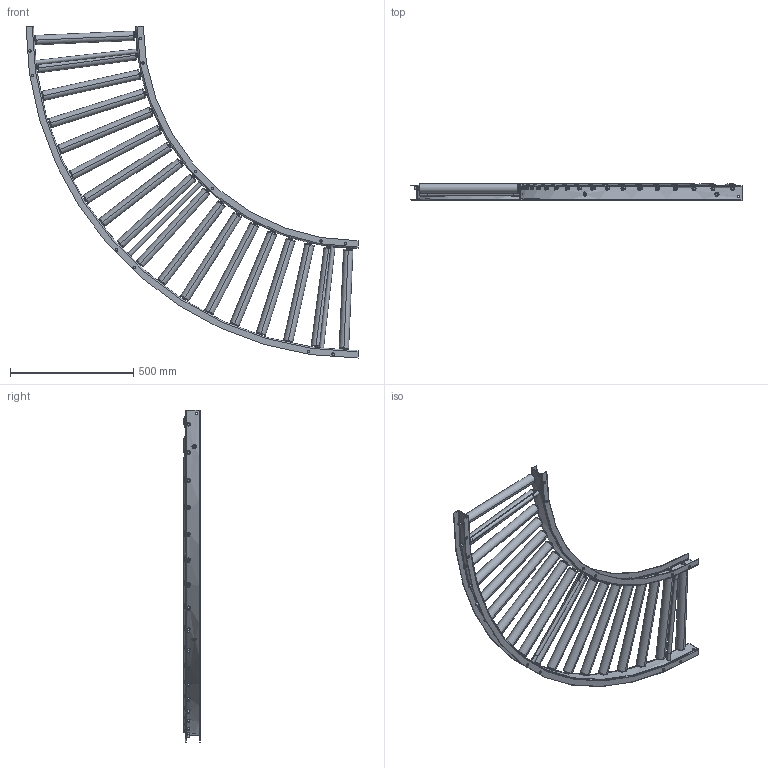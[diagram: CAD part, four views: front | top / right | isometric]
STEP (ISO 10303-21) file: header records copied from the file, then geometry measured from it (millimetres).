
FILE_DESCRIPTION (( 'STEP AP214' ), '1' );
FILE_NAME ('R-3812P-02.STEP', '2012-10-28T05:07:11', ( '' ), ( '' ), '', '', '' );
FILE_SCHEMA (( 'AUTOMOTIVE_DESIGN' ));
Length unit declared in the file: millimetre
Products named in the file (5): roller; stay; frame4; frame3; R-3812P-02
Assembly tree (23 placements, depth 2):
  R-3812P-02
    frame3
    frame4
    stay  x3
    roller  x18
Bounding box: 1345 x 67.05 x 1345 mm (x, y, z)
Volume: 9462238.7 mm3; surface area: 1817699.6 mm2
Topology: 59 solids, 59 shells, 912 faces, 1998 edges, 1270 vertices
Faces by surface type: cylinder 466, plane 270, cone 96, torus 80
Entity records: 14566 total; most frequent: CARTESIAN_POINT 8316, ORIENTED_EDGE 1268, DIRECTION 1106, EDGE_CURVE 634, AXIS2_PLACEMENT_3D 440, VERTEX_POINT 418, EDGE_LOOP 360, FACE_OUTER_BOUND 234
